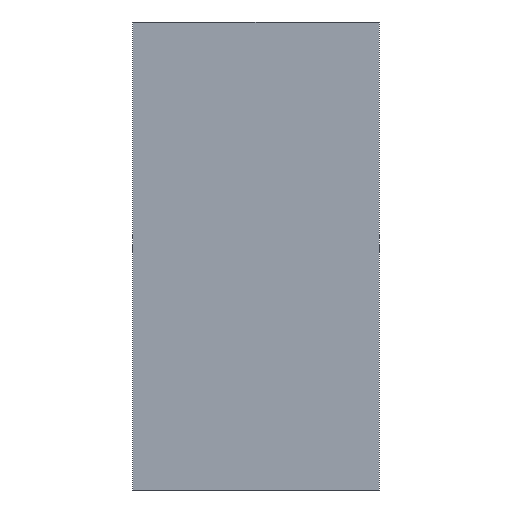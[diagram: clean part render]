
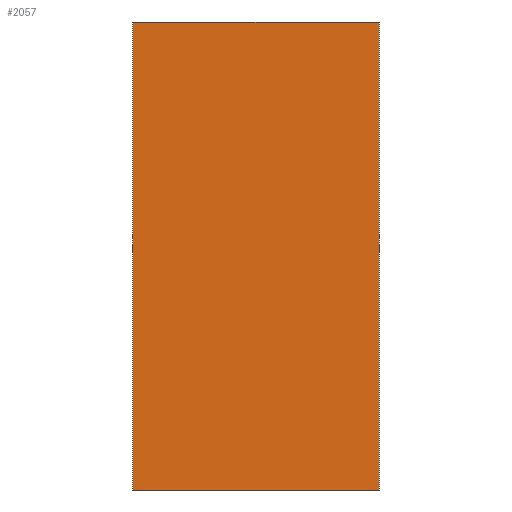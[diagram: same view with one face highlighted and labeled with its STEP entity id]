
A CAD part, front view. The second image highlights one B-rep face of the part: STEP entity #2057.
In plain terms, the highlighted planar face has unit normal (0, -1, 0).
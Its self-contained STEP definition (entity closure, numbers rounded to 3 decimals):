
#140 = ORIENTED_EDGE ( 'NONE', *, *, #863, .F. ) ;
#190 = ORIENTED_EDGE ( 'NONE', *, *, #1815, .T. ) ;
#216 = EDGE_CURVE ( 'NONE', #1995, #2059, #1637, .T. ) ;
#254 = EDGE_LOOP ( 'NONE', ( #1909, #140, #2060, #190 ) ) ;
#843 = LINE ( 'NONE', #844, #847 ) ;
#844 = CARTESIAN_POINT ( 'NONE',  ( 39.5, 0., 150. ) ) ;
#847 = VECTOR ( 'NONE', #848, 1000. ) ;
#848 = DIRECTION ( 'NONE',  ( 0., 0., -1. ) ) ;
#863 = EDGE_CURVE ( 'NONE', #2059, #1654, #843, .T. ) ;
#1318 = CARTESIAN_POINT ( 'NONE',  ( -39.5, 0., 150. ) ) ;
#1336 = CARTESIAN_POINT ( 'NONE',  ( 39.5, 0., 0. ) ) ;
#1375 = CARTESIAN_POINT ( 'NONE',  ( -39.5, 0., 0. ) ) ;
#1437 = LINE ( 'NONE', #1438, #1439 ) ;
#1438 = CARTESIAN_POINT ( 'NONE',  ( -39.5, 0., 150. ) ) ;
#1439 = VECTOR ( 'NONE', #1440, 1000. ) ;
#1440 = DIRECTION ( 'NONE',  ( 0., 0., -1. ) ) ;
#1491 = LINE ( 'NONE', #1492, #1493 ) ;
#1492 = CARTESIAN_POINT ( 'NONE',  ( 39.5, 0., 0. ) ) ;
#1493 = VECTOR ( 'NONE', #1494, 1000. ) ;
#1494 = DIRECTION ( 'NONE',  ( 1., 0., 0. ) ) ;
#1637 = LINE ( 'NONE', #1638, #1639 ) ;
#1638 = CARTESIAN_POINT ( 'NONE',  ( 39.5, 0., 150. ) ) ;
#1639 = VECTOR ( 'NONE', #1640, 1000. ) ;
#1640 = DIRECTION ( 'NONE',  ( 1., 0., 0. ) ) ;
#1641 = FACE_OUTER_BOUND ( 'NONE', #254, .T. ) ;
#1642 = PLANE ( 'NONE',  #1643 ) ;
#1643 = AXIS2_PLACEMENT_3D ( 'NONE', #1644, #1645, #1646 ) ;
#1644 = CARTESIAN_POINT ( 'NONE',  ( 39.5, 0., 150. ) ) ;
#1645 = DIRECTION ( 'NONE',  ( 0., 1., 0. ) ) ;
#1646 = DIRECTION ( 'NONE',  ( 0., 0., 1. ) ) ;
#1652 = CARTESIAN_POINT ( 'NONE',  ( 39.5, 0., 150. ) ) ;
#1654 = VERTEX_POINT ( 'NONE', #1336 ) ;
#1694 = VERTEX_POINT ( 'NONE', #1375 ) ;
#1815 = EDGE_CURVE ( 'NONE', #1995, #1694, #1437, .T. ) ;
#1909 = ORIENTED_EDGE ( 'NONE', *, *, #2025, .T. ) ;
#1995 = VERTEX_POINT ( 'NONE', #1318 ) ;
#2025 = EDGE_CURVE ( 'NONE', #1694, #1654, #1491, .T. ) ;
#2057 = ADVANCED_FACE ( 'NONE', ( #1641 ), #1642, .F. ) ;
#2059 = VERTEX_POINT ( 'NONE', #1652 ) ;
#2060 = ORIENTED_EDGE ( 'NONE', *, *, #216, .F. ) ;
